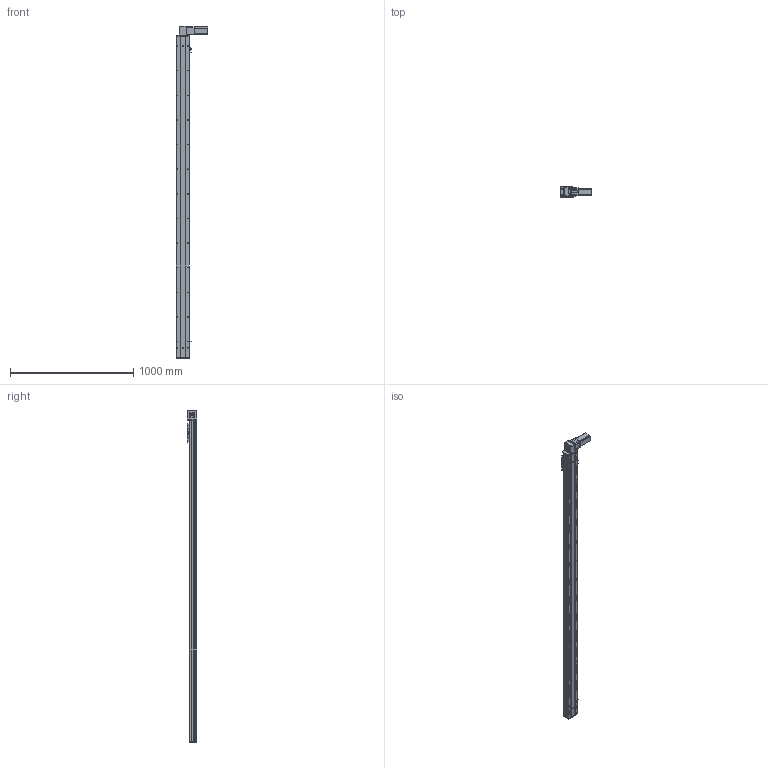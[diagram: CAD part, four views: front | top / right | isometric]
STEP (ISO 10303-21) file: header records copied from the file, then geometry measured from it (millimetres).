
FILE_DESCRIPTION (( 'STEP AP203' ), '1' );
FILE_NAME ('Y10CB-D90-S2350-BD-P400W.STEP', '2020-02-17T03:02:15', ( '微软用户' ), ( '微软中国' ), 'SwSTEP 2.0', 'SolidWorks 2017', '' );
FILE_SCHEMA (( 'CONFIG_CONTROL_DESIGN' ));
Length unit declared in the file: millimetre
Products named in the file (16): 10CB9-掛极; 0CB-雄赽釱---; 10CB-耜裔; 0Cb-俋欶---; Y135C-陔俋离換覜結え-; Y10B-々湍喘謫眊楊擘啣--; Y100-135俋离換覜ん--; san松下电机400不带刹车----; 0B-源倛裔啣; Y10B--々湍喘謫眊--666; 0B-埴倛裔啣; 0B-薊粣ん眊; 10CB-詩湍-; Y10CB-D90-S2350-BD-P400W; Y10CB- 掛极耜裔啣-毀---; Y10C---詩湍揤啣
Assembly tree (19 placements, depth 2):
  Y10CB-D90-S2350-BD-P400W
    0CB-雄赽釱---
    0Cb-俋欶---
    Y10B-々湍喘謫眊楊擘啣--
    san松下电机400不带刹车----
    0B-源倛裔啣
    0B-埴倛裔啣
    10CB-詩湍-
    Y10CB- 掛极耜裔啣-毀---  x2
    Y10C---詩湍揤啣  x2
    10CB9-掛极
    10CB-耜裔
    Y135C-陔俋离換覜結え-
    Y100-135俋离換覜ん--  x3
    Y10B--々湍喘謫眊--666
    0B-薊粣ん眊
Bounding box: 258 x 80.5 x 2696 mm (x, y, z)
Volume: 5491831.6 mm3; surface area: 2556419 mm2
Topology: 19 solids, 19 shells, 984 faces, 2662 edges, 1724 vertices
Faces by surface type: cylinder 510, plane 450, cone 24
Entity records: 31069 total; most frequent: CARTESIAN_POINT 5940, DIRECTION 4933, ORIENTED_EDGE 4794, EDGE_CURVE 2397, AXIS2_PLACEMENT_3D 1767, VERTEX_POINT 1550, VECTOR 1399, LINE 1399
